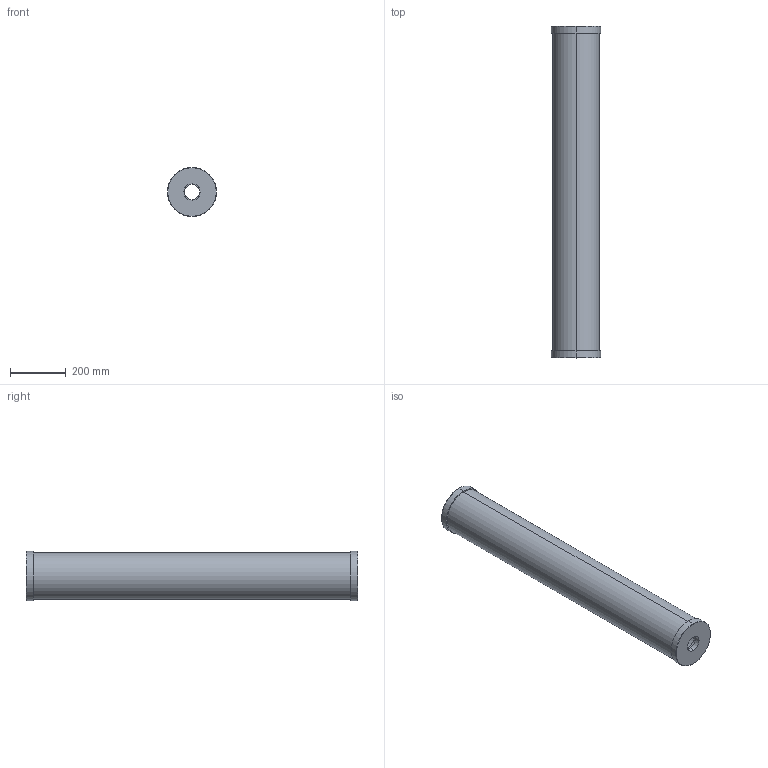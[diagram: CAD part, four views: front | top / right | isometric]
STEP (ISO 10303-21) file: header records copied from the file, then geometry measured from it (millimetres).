
FILE_DESCRIPTION (( 'STEP AP203' ), '1' );
FILE_NAME ('CC20000_P_NPT.STEP', '2016-03-21T09:00:46', ( '' ), ( '' ), 'SwSTEP 2.0', 'SolidWorks 2014', '' );
FILE_SCHEMA (( 'CONFIG_CONTROL_DESIGN' ));
Length unit declared in the file: inch
Products named in the file (2): CC20000_P_NPT
Bounding box: 176.53 x 1193.8 x 176.53 mm (x, y, z)
Volume: 6546213.6 mm3; surface area: 1255964.2 mm2
Topology: 1 solids, 1 shells, 28 faces, 56 edges, 36 vertices
Faces by surface type: cylinder 12, cone 8, plane 8
Entity records: 905 total; most frequent: DIRECTION 152, CARTESIAN_POINT 122, ORIENTED_EDGE 112, AXIS2_PLACEMENT_3D 66, EDGE_CURVE 56, EDGE_LOOP 36, CIRCLE 36, VERTEX_POINT 36
